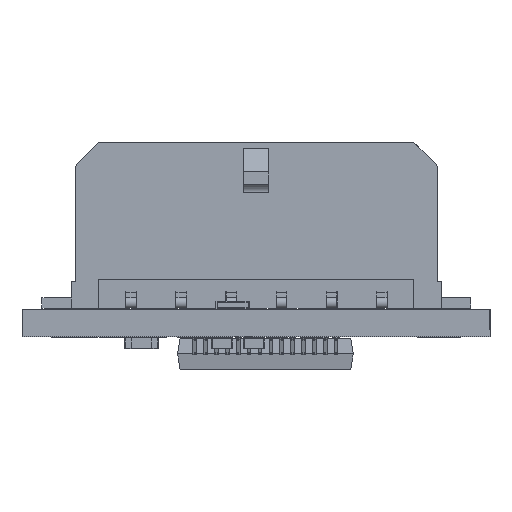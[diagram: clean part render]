
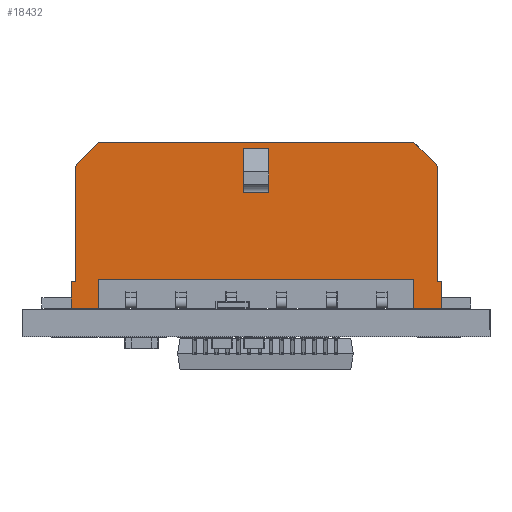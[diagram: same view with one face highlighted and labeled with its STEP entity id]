
A CAD part, left-side view. The second image highlights one B-rep face of the part: STEP entity #18432.
In plain terms, the highlighted planar face has unit normal (-1, 0, 0).
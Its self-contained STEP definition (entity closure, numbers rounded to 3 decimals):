
#1481 = LINE ( 'NONE', #166279, #140039 ) ;
#1729 = DIRECTION ( 'NONE',  ( 0., 0., 1. ) ) ;
#2441 = ORIENTED_EDGE ( 'NONE', *, *, #46853, .F. ) ;
#5559 = CARTESIAN_POINT ( 'NONE',  ( -3.445, 0.73, 9.6 ) ) ;
#6386 = DIRECTION ( 'NONE',  ( 0., -0.707, 0.707 ) ) ;
#6869 = ORIENTED_EDGE ( 'NONE', *, *, #155129, .F. ) ;
#7342 = EDGE_CURVE ( 'NONE', #62794, #16776, #1481, .T. ) ;
#8911 = VECTOR ( 'NONE', #1729, 1000. ) ;
#10336 = EDGE_CURVE ( 'NONE', #102831, #139892, #90559, .T. ) ;
#13030 = VERTEX_POINT ( 'NONE', #52760 ) ;
#13273 = EDGE_CURVE ( 'NONE', #33248, #140135, #67004, .T. ) ;
#13634 = VERTEX_POINT ( 'NONE', #70217 ) ;
#14026 = DIRECTION ( 'NONE',  ( 0., 0., 1. ) ) ;
#15385 = LINE ( 'NONE', #106556, #149699 ) ;
#16776 = VERTEX_POINT ( 'NONE', #65894 ) ;
#18432 = ADVANCED_FACE ( 'NONE', ( #65533, #131686 ), #124018, .T. ) ;
#19399 = DIRECTION ( 'NONE',  ( 0., -0.707, -0.707 ) ) ;
#20206 = ORIENTED_EDGE ( 'NONE', *, *, #22778, .F. ) ;
#21309 = CARTESIAN_POINT ( 'NONE',  ( -3.445, -9.445, 0.04 ) ) ;
#21466 = DIRECTION ( 'NONE',  ( 0., 0., -1. ) ) ;
#21716 = ORIENTED_EDGE ( 'NONE', *, *, #107711, .F. ) ;
#21789 = CARTESIAN_POINT ( 'NONE',  ( -3.445, 9.405, 0.04 ) ) ;
#21905 = LINE ( 'NONE', #21789, #123258 ) ;
#21914 = VERTEX_POINT ( 'NONE', #43265 ) ;
#22778 = EDGE_CURVE ( 'NONE', #33248, #122289, #132697, .T. ) ;
#22820 = DIRECTION ( 'NONE',  ( 0., 0., 1. ) ) ;
#23447 = CARTESIAN_POINT ( 'NONE',  ( -3.445, -11.095, 1.64 ) ) ;
#23576 = VECTOR ( 'NONE', #134314, 1000. ) ;
#23670 = LINE ( 'NONE', #72217, #93935 ) ;
#25095 = EDGE_CURVE ( 'NONE', #98925, #48637, #25634, .T. ) ;
#25634 = LINE ( 'NONE', #167048, #91737 ) ;
#27118 = ORIENTED_EDGE ( 'NONE', *, *, #10336, .T. ) ;
#27345 = VECTOR ( 'NONE', #124619, 1000. ) ;
#27435 = LINE ( 'NONE', #137784, #29588 ) ;
#28981 = CARTESIAN_POINT ( 'NONE',  ( -3.445, -11.095, 0.04 ) ) ;
#29588 = VECTOR ( 'NONE', #151132, 1000. ) ;
#31432 = CARTESIAN_POINT ( 'NONE',  ( -3.445, 10.805, 1.64 ) ) ;
#31908 = VECTOR ( 'NONE', #21466, 1000. ) ;
#33248 = VERTEX_POINT ( 'NONE', #156623 ) ;
#36951 = EDGE_CURVE ( 'NONE', #13030, #152400, #15385, .T. ) ;
#40112 = VECTOR ( 'NONE', #14026, 1000. ) ;
#40467 = ORIENTED_EDGE ( 'NONE', *, *, #53594, .T. ) ;
#41292 = ORIENTED_EDGE ( 'NONE', *, *, #44119, .F. ) ;
#41968 = VECTOR ( 'NONE', #75397, 1000. ) ;
#43265 = CARTESIAN_POINT ( 'NONE',  ( -3.445, -10.845, 8.55 ) ) ;
#44119 = EDGE_CURVE ( 'NONE', #122289, #44965, #114267, .T. ) ;
#44458 = LINE ( 'NONE', #31432, #145816 ) ;
#44965 = VERTEX_POINT ( 'NONE', #170538 ) ;
#45568 = VECTOR ( 'NONE', #147703, 1000. ) ;
#45648 = LINE ( 'NONE', #125529, #153346 ) ;
#46466 = CARTESIAN_POINT ( 'NONE',  ( -3.445, 9.405, 0.04 ) ) ;
#46853 = EDGE_CURVE ( 'NONE', #98925, #13030, #149681, .T. ) ;
#48127 = CARTESIAN_POINT ( 'NONE',  ( -3.445, -0.77, 6.95 ) ) ;
#48637 = VERTEX_POINT ( 'NONE', #28981 ) ;
#49705 = CARTESIAN_POINT ( 'NONE',  ( -3.445, -0.77, 9.6 ) ) ;
#50081 = EDGE_CURVE ( 'NONE', #102831, #21914, #152235, .T. ) ;
#52760 = CARTESIAN_POINT ( 'NONE',  ( -3.445, -9.445, 1.79 ) ) ;
#53594 = EDGE_CURVE ( 'NONE', #140135, #44965, #27435, .T. ) ;
#58782 = ORIENTED_EDGE ( 'NONE', *, *, #7342, .T. ) ;
#60601 = EDGE_LOOP ( 'NONE', ( #40467, #41292, #20206, #165345 ) ) ;
#60943 = DIRECTION ( 'NONE',  ( -1., 0., 0. ) ) ;
#61362 = CARTESIAN_POINT ( 'NONE',  ( -3.445, 9.405, 9.95 ) ) ;
#62794 = VERTEX_POINT ( 'NONE', #155953 ) ;
#64141 = CARTESIAN_POINT ( 'NONE',  ( -3.445, -0.77, 9.6 ) ) ;
#65347 = ORIENTED_EDGE ( 'NONE', *, *, #167466, .F. ) ;
#65533 = FACE_OUTER_BOUND ( 'NONE', #98289, .T. ) ;
#65742 = DIRECTION ( 'NONE',  ( 0., 0., 1. ) ) ;
#65894 = CARTESIAN_POINT ( 'NONE',  ( -3.445, 11.055, 1.64 ) ) ;
#67004 = LINE ( 'NONE', #49705, #31908 ) ;
#70217 = CARTESIAN_POINT ( 'NONE',  ( -3.445, -11.095, 1.64 ) ) ;
#71331 = CARTESIAN_POINT ( 'NONE',  ( -3.445, 10.805, 8.55 ) ) ;
#72217 = CARTESIAN_POINT ( 'NONE',  ( -3.445, 10.805, 8.55 ) ) ;
#74958 = ORIENTED_EDGE ( 'NONE', *, *, #36951, .F. ) ;
#75397 = DIRECTION ( 'NONE',  ( 0., 0., -1. ) ) ;
#77953 = DIRECTION ( 'NONE',  ( 0., 1., 0. ) ) ;
#79894 = CARTESIAN_POINT ( 'NONE',  ( -3.445, -9.445, 0.04 ) ) ;
#80139 = VECTOR ( 'NONE', #126421, 1000. ) ;
#81228 = CARTESIAN_POINT ( 'NONE',  ( -3.445, 9.405, 1.79 ) ) ;
#87061 = DIRECTION ( 'NONE',  ( 0., 1., 0. ) ) ;
#88195 = CARTESIAN_POINT ( 'NONE',  ( -3.445, -9.445, 9.95 ) ) ;
#90246 = EDGE_CURVE ( 'NONE', #154833, #167807, #120128, .T. ) ;
#90559 = LINE ( 'NONE', #88195, #80139 ) ;
#91737 = VECTOR ( 'NONE', #101234, 1000. ) ;
#93775 = ORIENTED_EDGE ( 'NONE', *, *, #152634, .T. ) ;
#93920 = ORIENTED_EDGE ( 'NONE', *, *, #110304, .F. ) ;
#93935 = VECTOR ( 'NONE', #6386, 1000. ) ;
#98289 = EDGE_LOOP ( 'NONE', ( #138627, #157638, #65347, #93775, #155308, #27118, #21716, #6869, #58782, #93920, #139457, #152664, #74958, #2441 ) ) ;
#98637 = CARTESIAN_POINT ( 'NONE',  ( -3.445, -9.445, 9.95 ) ) ;
#98925 = VERTEX_POINT ( 'NONE', #21309 ) ;
#101234 = DIRECTION ( 'NONE',  ( 0., -1., 0. ) ) ;
#102831 = VERTEX_POINT ( 'NONE', #157656 ) ;
#104257 = DIRECTION ( 'NONE',  ( 0., 1., 0. ) ) ;
#106556 = CARTESIAN_POINT ( 'NONE',  ( -3.445, -9.445, 1.79 ) ) ;
#107517 = CARTESIAN_POINT ( 'NONE',  ( -3.445, -10.845, 1.64 ) ) ;
#107711 = EDGE_CURVE ( 'NONE', #144386, #139892, #23670, .T. ) ;
#108334 = LINE ( 'NONE', #124553, #23576 ) ;
#109700 = CARTESIAN_POINT ( 'NONE',  ( -3.445, -10.845, 1.64 ) ) ;
#110304 = EDGE_CURVE ( 'NONE', #154833, #16776, #108334, .T. ) ;
#113598 = CARTESIAN_POINT ( 'NONE',  ( -3.445, -10.845, 0.04 ) ) ;
#113970 = DIRECTION ( 'NONE',  ( 0., -1., 0. ) ) ;
#114267 = LINE ( 'NONE', #5559, #27345 ) ;
#118356 = VECTOR ( 'NONE', #77953, 1000. ) ;
#120035 = CARTESIAN_POINT ( 'NONE',  ( -3.445, 11.055, 0.04 ) ) ;
#120128 = LINE ( 'NONE', #120035, #45568 ) ;
#122289 = VERTEX_POINT ( 'NONE', #170433 ) ;
#122709 = LINE ( 'NONE', #107517, #8911 ) ;
#123258 = VECTOR ( 'NONE', #140781, 1000. ) ;
#124018 = PLANE ( 'NONE',  #155488 ) ;
#124553 = CARTESIAN_POINT ( 'NONE',  ( -3.445, 11.055, 0.04 ) ) ;
#124619 = DIRECTION ( 'NONE',  ( 0., 0., -1. ) ) ;
#124755 = LINE ( 'NONE', #23447, #41968 ) ;
#125529 = CARTESIAN_POINT ( 'NONE',  ( -3.445, -10.845, 1.64 ) ) ;
#126421 = DIRECTION ( 'NONE',  ( 0., 1., 0. ) ) ;
#127771 = EDGE_CURVE ( 'NONE', #167807, #152400, #21905, .T. ) ;
#131686 = FACE_BOUND ( 'NONE', #60601, .T. ) ;
#132697 = LINE ( 'NONE', #64141, #118356 ) ;
#134314 = DIRECTION ( 'NONE',  ( 0., 0., 1. ) ) ;
#135791 = CARTESIAN_POINT ( 'NONE',  ( -3.445, 11.055, 0.04 ) ) ;
#137784 = CARTESIAN_POINT ( 'NONE',  ( -3.445, -0.77, 6.95 ) ) ;
#138627 = ORIENTED_EDGE ( 'NONE', *, *, #25095, .T. ) ;
#139457 = ORIENTED_EDGE ( 'NONE', *, *, #90246, .T. ) ;
#139892 = VERTEX_POINT ( 'NONE', #61362 ) ;
#140039 = VECTOR ( 'NONE', #87061, 1000. ) ;
#140135 = VERTEX_POINT ( 'NONE', #48127 ) ;
#140781 = DIRECTION ( 'NONE',  ( 0., 0., 1. ) ) ;
#144386 = VERTEX_POINT ( 'NONE', #71331 ) ;
#144588 = EDGE_CURVE ( 'NONE', #13634, #48637, #124755, .T. ) ;
#145816 = VECTOR ( 'NONE', #65742, 1000. ) ;
#147703 = DIRECTION ( 'NONE',  ( 0., -1., 0. ) ) ;
#149681 = LINE ( 'NONE', #79894, #40112 ) ;
#149699 = VECTOR ( 'NONE', #104257, 1000. ) ;
#151132 = DIRECTION ( 'NONE',  ( 0., 1., 0. ) ) ;
#152235 = LINE ( 'NONE', #98637, #158139 ) ;
#152400 = VERTEX_POINT ( 'NONE', #81228 ) ;
#152634 = EDGE_CURVE ( 'NONE', #164533, #21914, #122709, .T. ) ;
#152664 = ORIENTED_EDGE ( 'NONE', *, *, #127771, .T. ) ;
#153346 = VECTOR ( 'NONE', #113970, 1000. ) ;
#154833 = VERTEX_POINT ( 'NONE', #135791 ) ;
#155129 = EDGE_CURVE ( 'NONE', #62794, #144386, #44458, .T. ) ;
#155308 = ORIENTED_EDGE ( 'NONE', *, *, #50081, .F. ) ;
#155488 = AXIS2_PLACEMENT_3D ( 'NONE', #113598, #60943, #22820 ) ;
#155953 = CARTESIAN_POINT ( 'NONE',  ( -3.445, 10.805, 1.64 ) ) ;
#156623 = CARTESIAN_POINT ( 'NONE',  ( -3.445, -0.77, 9.6 ) ) ;
#157638 = ORIENTED_EDGE ( 'NONE', *, *, #144588, .F. ) ;
#157656 = CARTESIAN_POINT ( 'NONE',  ( -3.445, -9.445, 9.95 ) ) ;
#158139 = VECTOR ( 'NONE', #19399, 1000. ) ;
#164533 = VERTEX_POINT ( 'NONE', #109700 ) ;
#165345 = ORIENTED_EDGE ( 'NONE', *, *, #13273, .T. ) ;
#166279 = CARTESIAN_POINT ( 'NONE',  ( -3.445, 10.805, 1.64 ) ) ;
#167048 = CARTESIAN_POINT ( 'NONE',  ( -3.445, -9.445, 0.04 ) ) ;
#167466 = EDGE_CURVE ( 'NONE', #164533, #13634, #45648, .T. ) ;
#167807 = VERTEX_POINT ( 'NONE', #46466 ) ;
#170433 = CARTESIAN_POINT ( 'NONE',  ( -3.445, 0.73, 9.6 ) ) ;
#170538 = CARTESIAN_POINT ( 'NONE',  ( -3.445, 0.73, 6.95 ) ) ;
